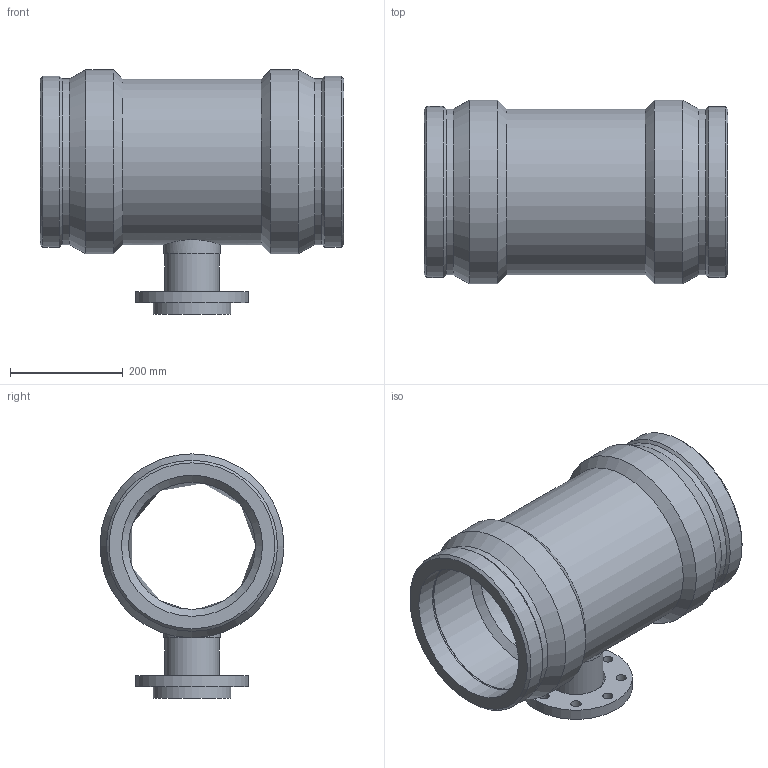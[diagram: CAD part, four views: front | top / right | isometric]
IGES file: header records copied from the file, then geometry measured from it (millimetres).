
Global section: file name: 499404250080.ipt; native system: Autodesk Inventor 2015; preprocessor: unknown; author: KIM; date: 20171106.094500; units: millimetre
Bounding box: 538 x 326 x 433 mm (x, y, z)
Volume: 15756931.1 mm3; surface area: 1134769.5 mm2
Topology: 1 solids, 2 shells, 60 faces, 136 edges, 90 vertices
Faces by surface type: revolution 21, plane 14, cylinder 13, cone 11, bspline 1
Full cylindrical faces by diameter (mm): 4 x2, 96 x1, 100 x1, 138 x1, 200 x1, 293.4 x1, 294.085 x2, 303.18 x2, 326 x2
